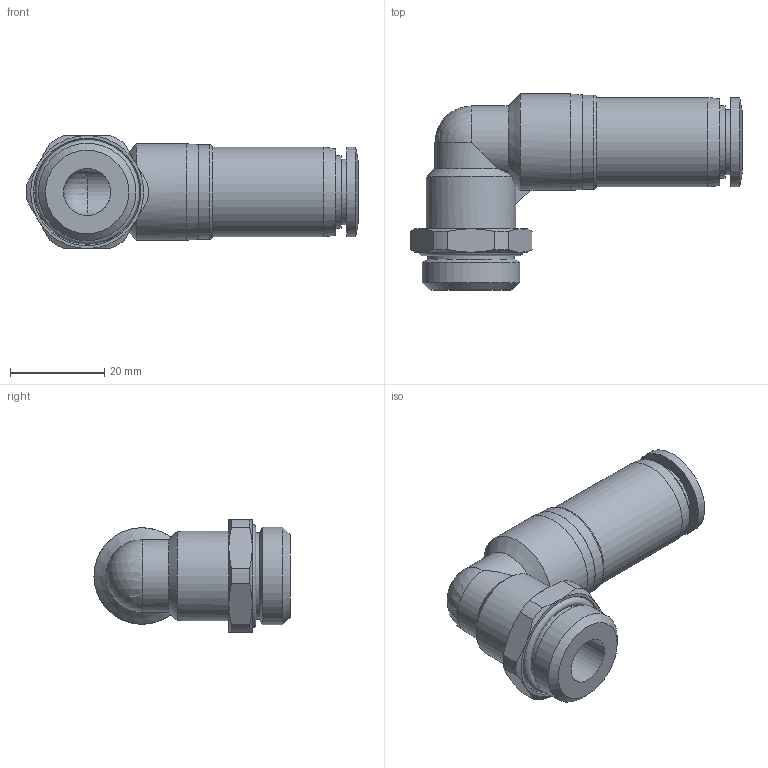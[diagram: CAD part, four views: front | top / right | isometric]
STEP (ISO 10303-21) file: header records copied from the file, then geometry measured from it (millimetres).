
FILE_DESCRIPTION((''),'2;1');
FILE_NAME('D:\INVENTOR\[New Inventor]\CDC Products 3D Ass''y\Stop Fittings\G\SPL-G\SPL12-G04.stp','2009-02-13T13:34:33',('Microsoft'),(''),'Autodesk Inventor 2008','Autodesk Inventor 2008','');
FILE_SCHEMA(('AUTOMOTIVE_DESIGN { 1 0 10303 214 1 1 1 1 }'));
Length unit declared in the file: millimetre
Products named in the file (1): SPL12-G04
Bounding box: 70.54 x 41.65 x 24 mm (x, y, z)
Volume: 17412.9 mm3; surface area: 9824.5 mm2
Topology: 2 solids, 2 shells, 67 faces, 151 edges, 89 vertices
Faces by surface type: cylinder 21, plane 20, cone 20, torus 3, sphere 2, bspline 1
Full cylindrical faces by diameter (mm): 10 x2, 12.3 x1, 13.9 x1, 15.4 x1, 18.4 x2, 19 x3, 20 x1, 20.5 x1, 20.7 x1
Entity records: 1745 total; most frequent: CARTESIAN_POINT 410, DIRECTION 288, ORIENTED_EDGE 236, AXIS2_PLACEMENT_3D 135, EDGE_CURVE 118, EDGE_LOOP 101, VERTEX_POINT 83, FACE_OUTER_BOUND 67
